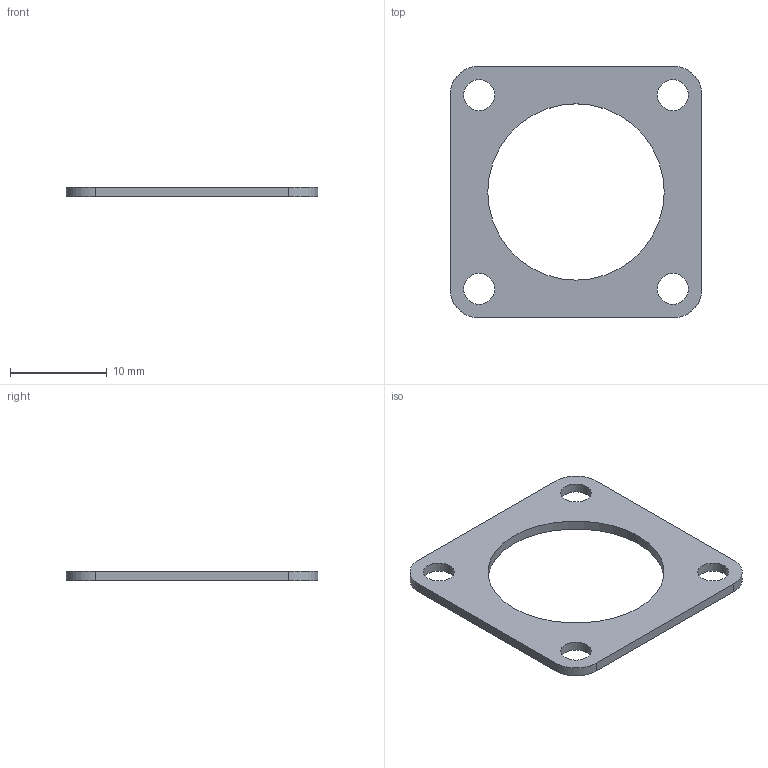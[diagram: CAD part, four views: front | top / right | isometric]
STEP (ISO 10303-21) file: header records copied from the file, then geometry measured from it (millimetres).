
FILE_DESCRIPTION (( 'STEP AP203' ), '1' );
FILE_NAME ('EB-13FG(R1).STEP', '2021-08-11T00:03:51', ( '' ), ( '' ), 'SwSTEP 2.0', 'SolidWorks 2018', '' );
FILE_SCHEMA (( 'CONFIG_CONTROL_DESIGN' ));
Length unit declared in the file: millimetre
Products named in the file (1): EB-13FG(R1)
Bounding box: 26 x 26 x 1 mm (x, y, z)
Volume: 375.9 mm3; surface area: 948.1 mm2
Topology: 1 solids, 1 shells, 15 faces, 39 edges, 26 vertices
Faces by surface type: cylinder 9, plane 6
Full cylindrical faces by diameter (mm): 3.2 x4, 18.2 x1
Entity records: 543 total; most frequent: DIRECTION 84, CARTESIAN_POINT 76, ORIENTED_EDGE 68, AXIS2_PLACEMENT_3D 34, EDGE_CURVE 34, EDGE_LOOP 30, VERTEX_POINT 26, FACE_OUTER_BOUND 20
